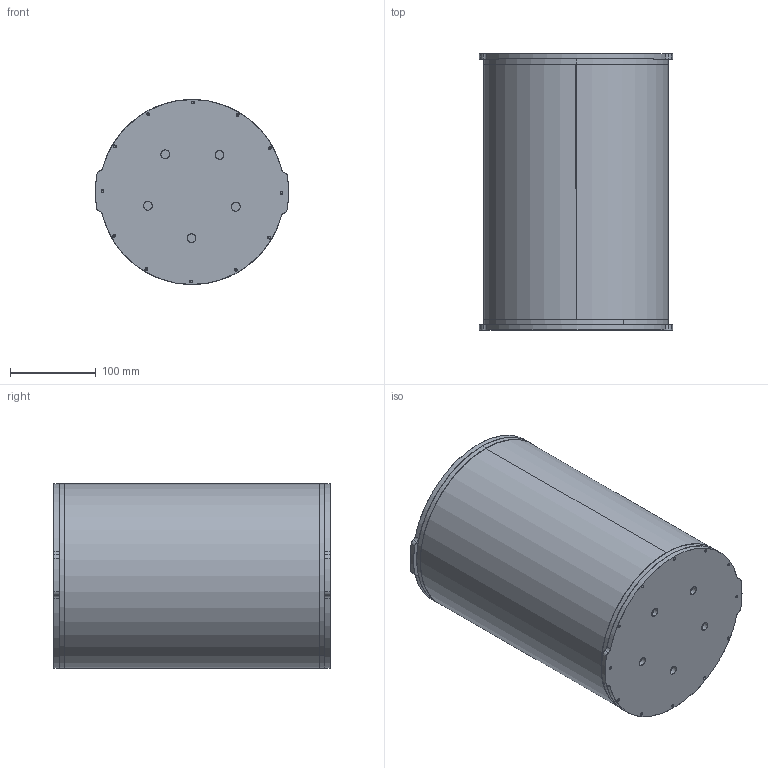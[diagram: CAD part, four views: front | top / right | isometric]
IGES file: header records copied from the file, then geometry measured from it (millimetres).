
Start section: SolidWorks IGES file using analytic representation for surfaces
Global section: file name: C:\Users\Jonathan\Dropbox\BR-Engineering\Models\WTE8-X1A-PUBLIC\IGS STEP STL\ASSEM-WTE8-R1.IGS; native system: SolidWorks 2014; preprocessor: SolidWorks 2014; author: Jonathan; date: 170301.095435; units: inch
Bounding box: 225.89 x 322.45 x 215.9 mm (x, y, z)
Surface area: 715345 mm2 (no closed solid volume)
Topology: 0 solids, 0 shells, 346 faces, 6000 edges, 5984 vertices
Faces by surface type: revolution 312, bspline 34
